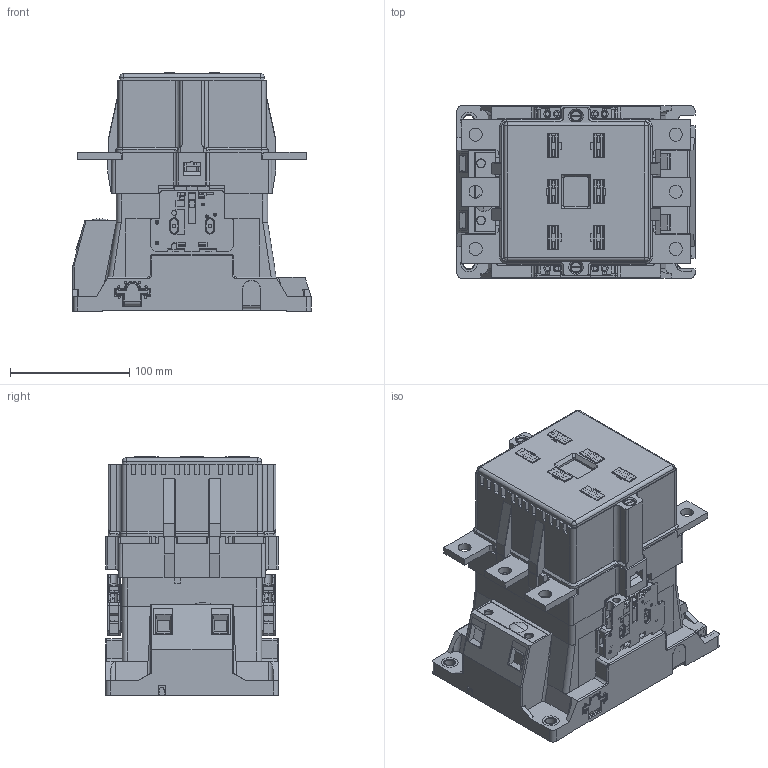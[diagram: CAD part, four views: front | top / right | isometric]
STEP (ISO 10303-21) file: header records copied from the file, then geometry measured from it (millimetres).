
FILE_DESCRIPTION((''),'2;1');
FILE_NAME('24000147P01_SW0001_ASM','2023-08-29T',('qinxiong.ji'),(''),'PRO/ENGINEER BY PARAMETRIC TECHNOLOGY CORPORATION, 2015440','PRO/ENGINEER BY PARAMETRIC TECHNOLOGY CORPORATION, 2015440','');
FILE_SCHEMA(('CONFIG_CONTROL_DESIGN'));
Products named in the file (13): BREP_WITH_VOIDS_141659; MANIFOLD_SOLID_BREP_142241; MANIFOLD_SOLID_BREP_142823; MANIFOLD_SOLID_BREP_145461; MANIFOLD_SOLID_BREP_146735; MANIFOLD_SOLID_BREP_149383; MANIFOLD_SOLID_BREP_152031; MANIFOLD_SOLID_BREP_154679; MANIFOLD_SOLID_BREP_157327; MANIFOLD_SOLID_BREP_159975; MANIFOLD_SOLID_BREP_162623; 24000147P01_SW0001_2_ASM; 24000147P01_SW0001_ASM
Assembly tree (12 placements, depth 3):
  24000147P01_SW0001_ASM
    24000147P01_SW0001_2_ASM
      BREP_WITH_VOIDS_141659
      MANIFOLD_SOLID_BREP_142241
      MANIFOLD_SOLID_BREP_142823
      MANIFOLD_SOLID_BREP_145461
      MANIFOLD_SOLID_BREP_146735
      MANIFOLD_SOLID_BREP_149383
      MANIFOLD_SOLID_BREP_152031
      MANIFOLD_SOLID_BREP_154679
      MANIFOLD_SOLID_BREP_157327
      MANIFOLD_SOLID_BREP_159975
      MANIFOLD_SOLID_BREP_162623
Bounding box: 200 x 145 x 200 mm (x, y, z)
Volume: 2640638.4 mm3; surface area: 533129.7 mm2
Topology: 11 solids, 30 shells, 5582 faces, 16112 edges, 10637 vertices
Faces by surface type: plane 4326, cylinder 1126, cone 72, bspline 46, torus 6, sphere 6
Entity records: 192003 total; most frequent: CARTESIAN_POINT 42903, ORIENTED_EDGE 32208, DIRECTION 29459, EDGE_CURVE 16104, VECTOR 12911, LINE 12911, VERTEX_POINT 10637, AXIS2_PLACEMENT_3D 8274
